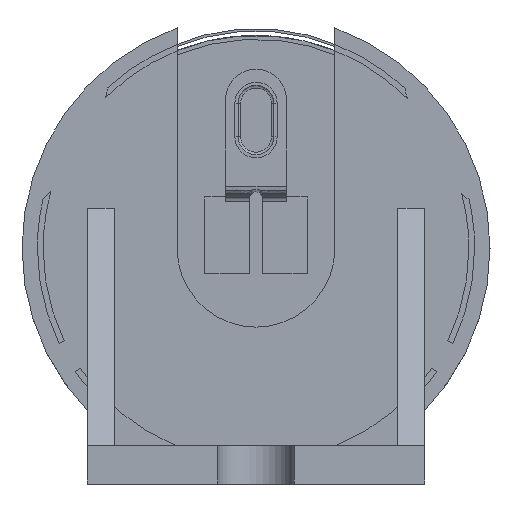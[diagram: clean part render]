
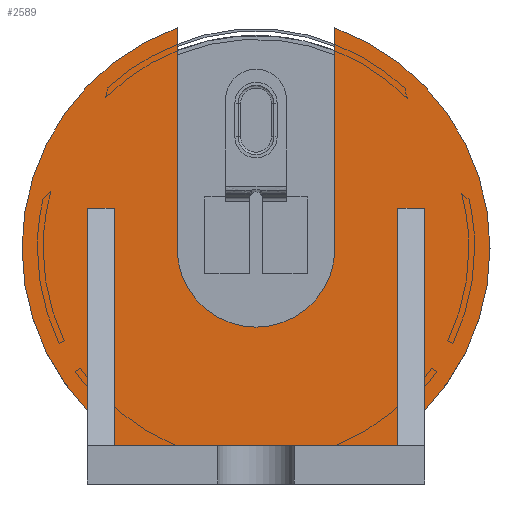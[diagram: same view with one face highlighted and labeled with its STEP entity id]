
A CAD part, left-side view. The second image highlights one B-rep face of the part: STEP entity #2589.
In plain terms, the highlighted free-form (B-spline) face has degree [3, 3] with [4, 4] control points.
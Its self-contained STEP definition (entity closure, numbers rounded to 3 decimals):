
#130=DIRECTION('',(0.,1.,0.));
#131=VECTOR('',#130,22.1);
#132=CARTESIAN_POINT('',(4.4,-11.05,3.));
#133=LINE('',#132,#131);
#146=DIRECTION('',(0.,0.,-1.));
#147=VECTOR('',#146,15.767);
#148=CARTESIAN_POINT('',(4.4,13.15,21.5));
#149=LINE('',#148,#147);
#158=CARTESIAN_POINT('',(4.4,0.,18.388));
#159=DIRECTION('',(-1.,0.,0.));
#160=DIRECTION('',(0.,1.,0.));
#161=AXIS2_PLACEMENT_3D('',#158,#159,#160);
#163=CARTESIAN_POINT('',(4.4,0.,18.388));
#164=DIRECTION('',(1.,0.,0.));
#165=DIRECTION('',(0.,-0.337,0.942));
#166=AXIS2_PLACEMENT_3D('',#163,#164,#165);
#168=CARTESIAN_POINT('',(4.4,0.,18.388));
#169=DIRECTION('',(1.,0.,0.));
#170=DIRECTION('',(0.,-1.,0.));
#171=AXIS2_PLACEMENT_3D('',#168,#169,#170);
#173=CARTESIAN_POINT('',(4.4,0.,18.388));
#174=DIRECTION('',(1.,0.,0.));
#175=DIRECTION('',(0.,0.721,-0.693));
#176=AXIS2_PLACEMENT_3D('',#173,#174,#175);
#178=CARTESIAN_POINT('',(4.4,0.,18.388));
#179=DIRECTION('',(1.,0.,0.));
#180=DIRECTION('',(0.,1.,0.));
#181=AXIS2_PLACEMENT_3D('',#178,#179,#180);
#187=DIRECTION('',(0.,0.,1.));
#188=VECTOR('',#187,17.183);
#189=CARTESIAN_POINT('',(4.4,6.15,18.388));
#190=LINE('',#189,#188);
#225=DIRECTION('',(0.,0.,-1.));
#226=VECTOR('',#225,17.183);
#227=CARTESIAN_POINT('',(4.4,-6.15,35.57));
#228=LINE('',#227,#226);
#784=DIRECTION('',(0.,0.,-1.));
#785=VECTOR('',#784,15.767);
#786=CARTESIAN_POINT('',(4.4,-13.15,21.5));
#787=LINE('',#786,#785);
#816=DIRECTION('',(0.,1.,0.));
#817=VECTOR('',#816,2.1);
#818=CARTESIAN_POINT('',(4.4,-13.15,21.5));
#819=LINE('',#818,#817);
#832=DIRECTION('',(0.,0.,1.));
#833=VECTOR('',#832,18.5);
#834=CARTESIAN_POINT('',(4.4,-11.05,3.));
#835=LINE('',#834,#833);
#1828=DIRECTION('',(0.,0.,-1.));
#1829=VECTOR('',#1828,18.5);
#1830=CARTESIAN_POINT('',(4.4,11.05,21.5));
#1831=LINE('',#1830,#1829);
#1832=DIRECTION('',(0.,1.,0.));
#1833=VECTOR('',#1832,2.1);
#1834=CARTESIAN_POINT('',(4.4,11.05,21.5));
#1835=LINE('',#1834,#1833);
#1854=CARTESIAN_POINT('',(4.4,6.15,18.388));
#1855=CARTESIAN_POINT('',(4.4,6.15,35.57));
#1856=VERTEX_POINT('',#1854);
#1857=VERTEX_POINT('',#1855);
#1858=CARTESIAN_POINT('',(4.4,18.25,18.388));
#1859=VERTEX_POINT('',#1858);
#1860=CARTESIAN_POINT('',(4.4,13.15,5.733));
#1861=VERTEX_POINT('',#1860);
#1862=CARTESIAN_POINT('',(4.4,13.15,21.5));
#1863=VERTEX_POINT('',#1862);
#1864=CARTESIAN_POINT('',(4.4,11.05,21.5));
#1865=VERTEX_POINT('',#1864);
#1866=CARTESIAN_POINT('',(4.4,11.05,3.));
#1867=VERTEX_POINT('',#1866);
#1868=CARTESIAN_POINT('',(4.4,-11.05,3.));
#1869=VERTEX_POINT('',#1868);
#1870=CARTESIAN_POINT('',(4.4,-11.05,21.5));
#1871=VERTEX_POINT('',#1870);
#1872=CARTESIAN_POINT('',(4.4,-13.15,21.5));
#1873=VERTEX_POINT('',#1872);
#1874=CARTESIAN_POINT('',(4.4,-13.15,5.733));
#1875=VERTEX_POINT('',#1874);
#1876=CARTESIAN_POINT('',(4.4,-18.25,18.388));
#1877=VERTEX_POINT('',#1876);
#1878=CARTESIAN_POINT('',(4.4,-6.15,35.57));
#1879=VERTEX_POINT('',#1878);
#1880=CARTESIAN_POINT('',(4.4,-6.15,18.388));
#1881=VERTEX_POINT('',#1880);
#2544=CARTESIAN_POINT('',(4.4,-18.98,2.349));
#2545=CARTESIAN_POINT('',(4.4,-18.98,13.64));
#2546=CARTESIAN_POINT('',(4.4,-18.98,24.931));
#2547=CARTESIAN_POINT('',(4.4,-18.98,36.222));
#2548=CARTESIAN_POINT('',(4.4,-6.327,2.349));
#2549=CARTESIAN_POINT('',(4.4,-6.327,13.64));
#2550=CARTESIAN_POINT('',(4.4,-6.327,24.931));
#2551=CARTESIAN_POINT('',(4.4,-6.327,36.222));
#2552=CARTESIAN_POINT('',(4.4,6.327,2.349));
#2553=CARTESIAN_POINT('',(4.4,6.327,13.64));
#2554=CARTESIAN_POINT('',(4.4,6.327,24.931));
#2555=CARTESIAN_POINT('',(4.4,6.327,36.222));
#2556=CARTESIAN_POINT('',(4.4,18.98,2.349));
#2557=CARTESIAN_POINT('',(4.4,18.98,13.64));
#2558=CARTESIAN_POINT('',(4.4,18.98,24.931));
#2559=CARTESIAN_POINT('',(4.4,18.98,36.222));
#2560=B_SPLINE_SURFACE_WITH_KNOTS('',3,3,((#2544,#2545,#2546,#2547),(#2548,
#2549,#2550,#2551),(#2552,#2553,#2554,#2555),(#2556,#2557,#2558,#2559)),
.UNSPECIFIED.,.F.,.F.,.F.,(4,4),(4,4),(-18.98,18.98),(-16.039,
17.834),.UNSPECIFIED.);
#2562=ORIENTED_EDGE('',*,*,#2561,.F.);
#2564=ORIENTED_EDGE('',*,*,#2563,.T.);
#2566=ORIENTED_EDGE('',*,*,#2565,.F.);
#2568=ORIENTED_EDGE('',*,*,#2567,.T.);
#2570=ORIENTED_EDGE('',*,*,#2569,.T.);
#2572=ORIENTED_EDGE('',*,*,#2571,.F.);
#2574=ORIENTED_EDGE('',*,*,#2573,.T.);
#2576=ORIENTED_EDGE('',*,*,#2575,.F.);
#2577=ORIENTED_EDGE('',*,*,#2477,.T.);
#2579=ORIENTED_EDGE('',*,*,#2578,.F.);
#2581=ORIENTED_EDGE('',*,*,#2580,.T.);
#2582=ORIENTED_EDGE('',*,*,#2532,.T.);
#2584=ORIENTED_EDGE('',*,*,#2583,.T.);
#2586=ORIENTED_EDGE('',*,*,#2585,.T.);
#2587=EDGE_LOOP('',(#2562,#2564,#2566,#2568,#2570,#2572,#2574,#2576,#2577,#2579,
#2581,#2582,#2584,#2586));
#2588=FACE_OUTER_BOUND('',#2587,.F.);
#162=CIRCLE('',#161,6.15);
#167=CIRCLE('',#166,18.25);
#172=CIRCLE('',#171,18.25);
#177=CIRCLE('',#176,18.25);
#182=CIRCLE('',#181,18.25);
#2477=EDGE_CURVE('',#1869,#1867,#133,.T.);
#2532=EDGE_CURVE('',#1863,#1861,#149,.T.);
#2561=EDGE_CURVE('',#1856,#1857,#190,.T.);
#2563=EDGE_CURVE('',#1856,#1881,#162,.T.);
#2565=EDGE_CURVE('',#1879,#1881,#228,.T.);
#2567=EDGE_CURVE('',#1879,#1877,#167,.T.);
#2569=EDGE_CURVE('',#1877,#1875,#172,.T.);
#2571=EDGE_CURVE('',#1873,#1875,#787,.T.);
#2573=EDGE_CURVE('',#1873,#1871,#819,.T.);
#2575=EDGE_CURVE('',#1869,#1871,#835,.T.);
#2578=EDGE_CURVE('',#1865,#1867,#1831,.T.);
#2580=EDGE_CURVE('',#1865,#1863,#1835,.T.);
#2583=EDGE_CURVE('',#1861,#1859,#177,.T.);
#2585=EDGE_CURVE('',#1859,#1857,#182,.T.);
#2589=ADVANCED_FACE('',(#2588),#2560,.F.);
